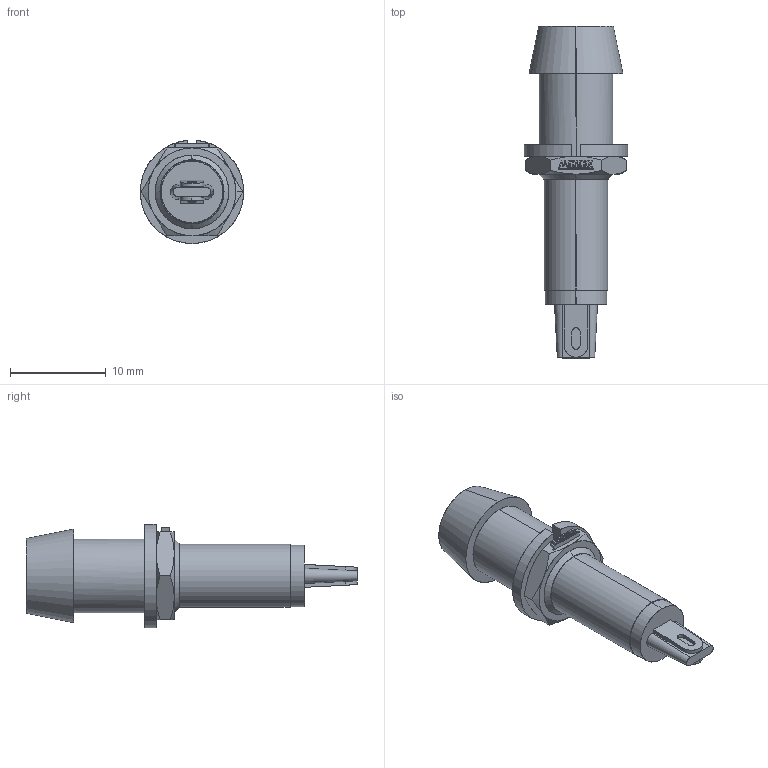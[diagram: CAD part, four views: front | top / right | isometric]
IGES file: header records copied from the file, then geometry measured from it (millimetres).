
Start section: SolidWorks IGES file using analytic representation for surfaces
Global section: file name: D:\X - Arquivos\PROEX\Empresas\P11 - METALTEX\01 - Produtos\IGES\Terceira remessa\TPN-08.IGS; native system: SolidWorks 2012; preprocessor: SolidWorks 2012; author: Usuario; date: 180207.113631; units: millimetre
Bounding box: 10.79 x 34.7 x 10.78 mm (x, y, z)
Surface area: 1048 mm2 (no closed solid volume)
Topology: 0 solids, 0 shells, 175 faces, 1596 edges, 1595 vertices
Faces by surface type: bspline 131, revolution 44
